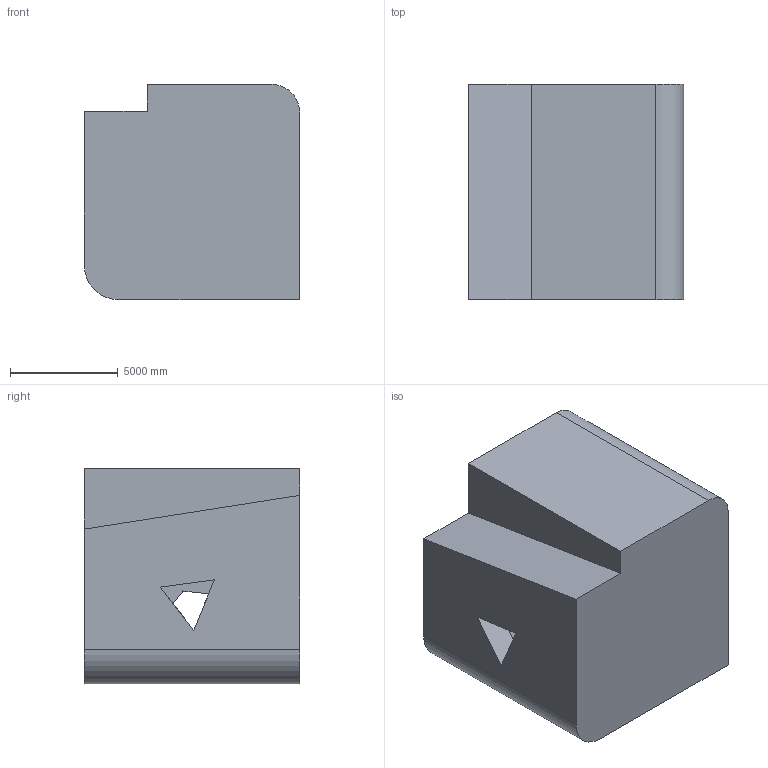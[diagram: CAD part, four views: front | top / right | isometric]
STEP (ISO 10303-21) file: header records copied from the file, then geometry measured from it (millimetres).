
FILE_DESCRIPTION (( 'STEP AP203' ), '1' );
FILE_NAME ('329.STEP', '2022-09-07T15:16:58', ( 'user' ), ( '' ), 'SwSTEP 2.0', 'SolidWorks 2021', '' );
FILE_SCHEMA (( 'CONFIG_CONTROL_DESIGN' ));
Length unit declared in the file: centimetre
Products named in the file (1): 329
Bounding box: 10000 x 10000 x 10000 mm (x, y, z)
Volume: 849371688881.5 mm3; surface area: 706760412.8 mm2
Topology: 1 solids, 1 shells, 29 faces, 77 edges, 51 vertices
Faces by surface type: plane 26, cylinder 3
Entity records: 970 total; most frequent: CARTESIAN_POINT 158, ORIENTED_EDGE 154, DIRECTION 143, EDGE_CURVE 77, VECTOR 71, LINE 71, VERTEX_POINT 51, AXIS2_PLACEMENT_3D 36
